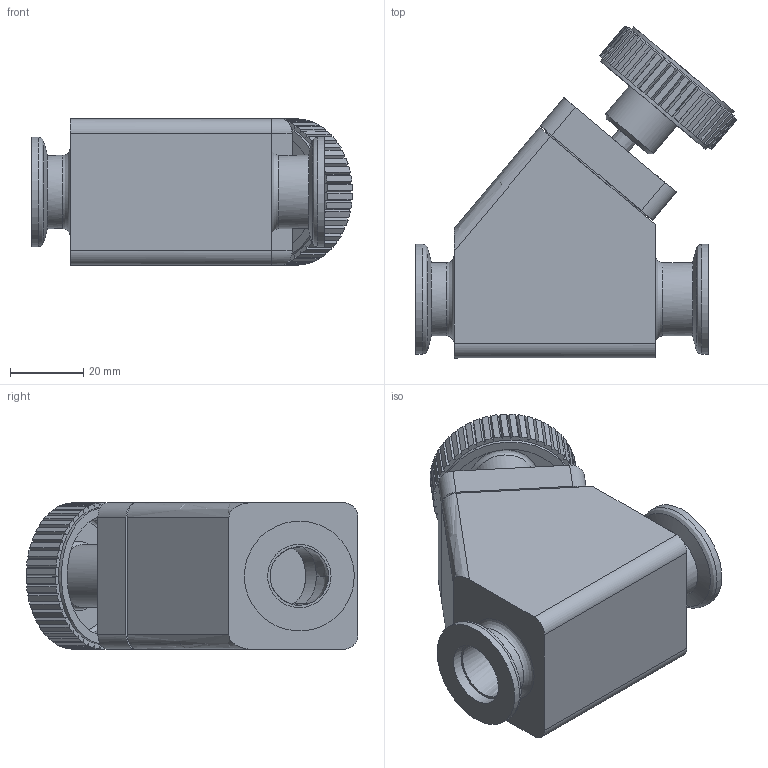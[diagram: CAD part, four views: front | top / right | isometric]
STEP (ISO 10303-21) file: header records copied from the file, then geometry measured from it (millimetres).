
FILE_DESCRIPTION((''),'2;1');
FILE_NAME('O:\MT\MT\Systeme\Cad\Datenexporte\www_vat_ch\263195.stp','2005-09-01T08:03:29',('User'),('SDRC'),'I-DEAS Master Series 9','UNIX','Yes');
FILE_SCHEMA(('CONFIG_CONTROL_DESIGN'));
Length unit declared in the file: millimetre
Assembly tree (13 placements, depth 0):
Bounding box: 87.63 x 90.64 x 40 mm (x, y, z)
Volume: 109305.4 mm3; surface area: 61227.5 mm2
Topology: 12 solids, 12 shells, 606 faces, 1343 edges, 883 vertices
Faces by surface type: bspline 606
Entity records: 22428 total; most frequent: CARTESIAN_POINT 13328, ORIENTED_EDGE 2526, EDGE_CURVE 1263, VERTEX_POINT 827, EDGE_LOOP 706, FACE_OUTER_BOUND 570, ADVANCED_FACE 570, B_SPLINE_CURVE_WITH_KNOTS 317
